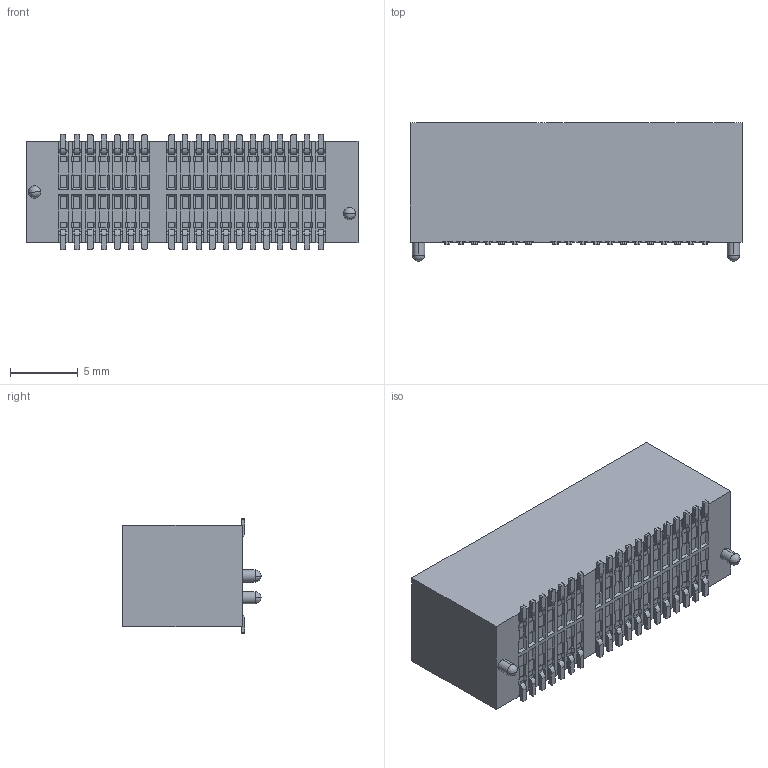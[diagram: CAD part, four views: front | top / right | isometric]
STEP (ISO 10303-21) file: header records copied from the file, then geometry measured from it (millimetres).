
FILE_DESCRIPTION (( 'STEP AP214' ), '1' );
FILE_NAME ('8406-2X20C00DPT.STEP', '2018-02-13T04:48:32', ( 'ADMIN' ), ( '' ), 'SwSTEP 2.0', 'SolidWorks 2011', '' );
FILE_SCHEMA (( 'AUTOMOTIVE_DESIGN' ));
Length unit declared in the file: millimetre
Products named in the file (3): 7000-CONN; 7000-40HSG; 8406-2X20C00DPT
Assembly tree (39 placements, depth 2):
  8406-2X20C00DPT
    7000-CONN  x38
    7000-40HSG
Bounding box: 24.5 x 10.2 x 8.5 mm (x, y, z)
Volume: 1264.6 mm3; surface area: 1653.6 mm2
Topology: 77 solids, 77 shells, 2320 faces, 6183 edges, 4016 vertices
Faces by surface type: plane 2118, cylinder 198, bspline 4
Entity records: 53401 total; most frequent: CARTESIAN_POINT 9599, ORIENTED_EDGE 9464, DIRECTION 8216, EDGE_CURVE 4732, LINE 4698, VECTOR 4698, VERTEX_POINT 3054, AXIS2_PLACEMENT_3D 1759
